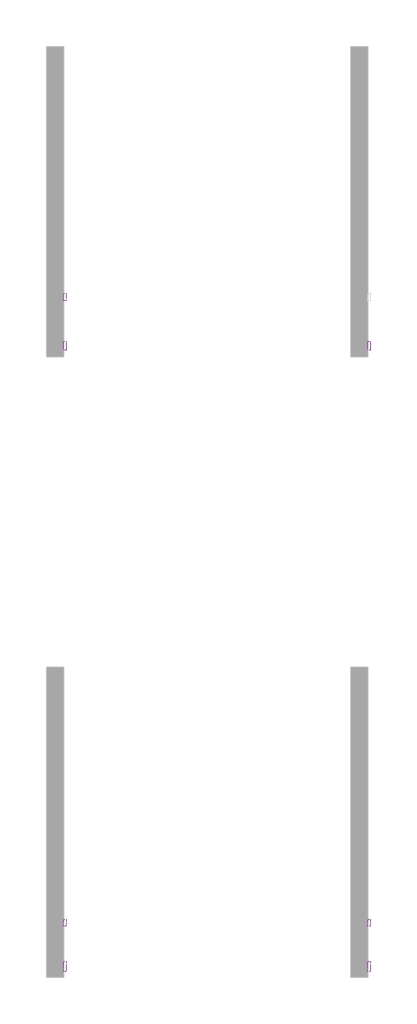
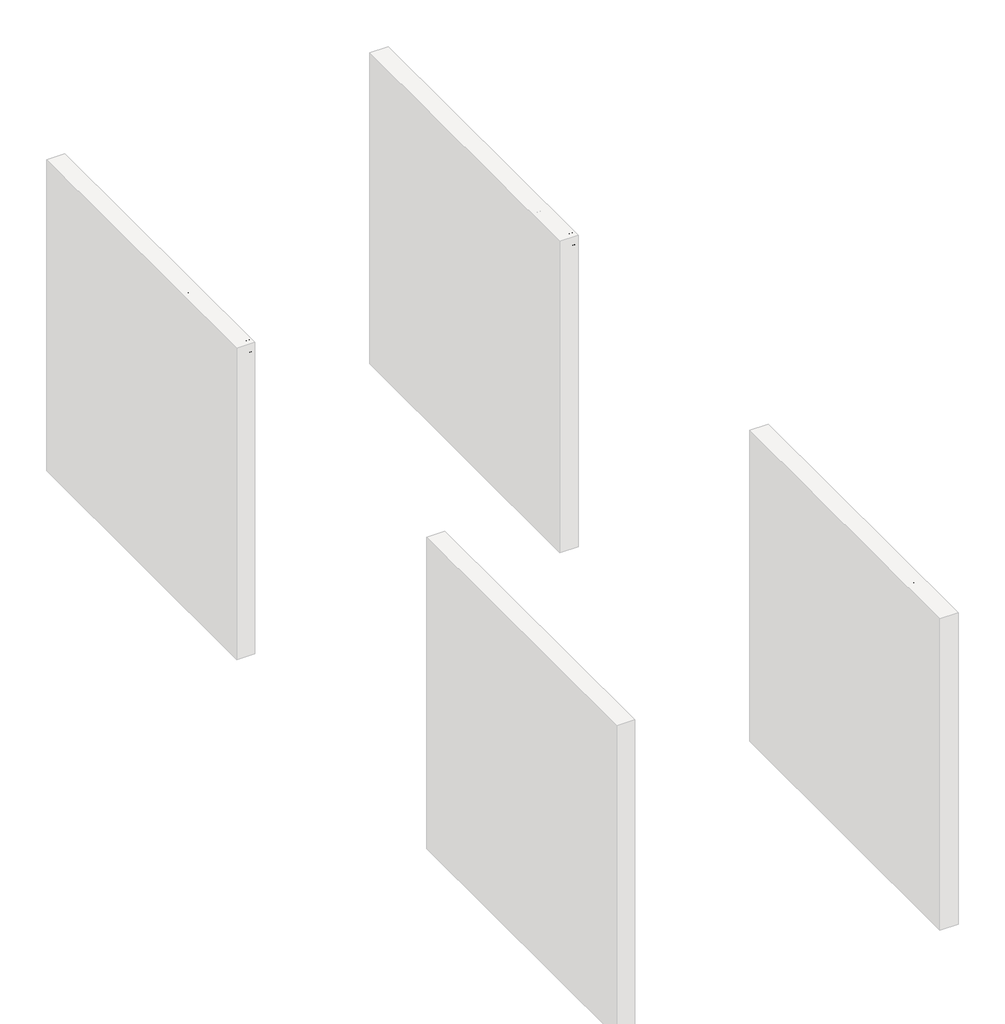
# One storey, part 7 of 8: 7 proxies.
"""IFC4 building model written with IfcOpenShell, lengths in millimetres."""

from ifc_helpers import new_model, si_unit, frame, origin, place, context, project, spatial, polyline, outline, extrude, element, save

model = new_model("IFC4")

# Units and contexts
model_context = context("Model", 3, world=origin())
ifc_project = project(units=[si_unit("LENGTHUNIT", "METRE", prefix="MILLI")], contexts=[model_context])

# Site, building, storey
site = spatial("IfcSite", under=ifc_project)
building = spatial("IfcBuilding", under=site)
storey = spatial("IfcBuildingStorey", under=building, Name="PORTOBELLO - SHOWROOM", Elevation=0.0)

# Proxies
placement = place(None, origin())
element("IfcBuildingElementProxy", 1, Name="10mm Arial", ObjectType="10mm Arial", at=placement, inside=storey, context=model_context, shape_type="SweptSolid", body=[
    extrude(outline(polyline([(1623.3898167, 2548.8308244), (1663.4889542, 2649.2871345), (1674.1820575, 2649.2871345), (1714.281195, 2548.8308244), (1701.0129177, 2548.8308244), (1689.510474, 2580.2234213), (1648.1360123, 2580.2234213), (1636.658094, 2548.8308244), (1623.3898167, 2548.8308244)]), holes=[polyline([(1652.7468, 2592.7804601), (1684.9242118, 2592.7804601), (1675.8743147, 2617.4776047), (1668.8355059, 2636.7300958), (1662.581512, 2619.6358457), (1652.7468, 2592.7804601)])]), frame((-9585.374587, 0.0, 0.0), z_axis=(1.0, 0.0, 0.0), x_axis=(0.0, 1.0, 0.0)), (0.0, 0.0, 1.0), 20.0),
    extrude(outline(polyline([(1726.1269953, 2548.8308244), (1726.1269953, 2622.6034272), (1737.1144042, 2622.6034272), (1737.1144042, 2611.6895946), (1744.9135025, 2621.7450358), (1752.7616517, 2624.173057), (1765.3677414, 2620.2980333), (1761.1738867, 2609.0408443), (1752.3447188, 2611.6160182), (1745.2445963, 2609.1389461), (1740.7196477, 2602.2718156), (1738.684034, 2587.6055867), (1738.684034, 2548.8308244), (1726.1269953, 2548.8308244)])), frame((-9585.374587, 0.0, 0.0), z_axis=(1.0, 0.0, 0.0), x_axis=(0.0, 1.0, 0.0)), (0.0, 0.0, 1.0), 20.0),
    extrude(outline(polyline([(1770.076631, 2542.552305), (1782.6336697, 2540.9826752), (1786.7048971, 2534.3607992), (1798.8940539, 2531.5648961), (1811.7453983, 2534.7286812), (1817.8767649, 2543.6069001), (1818.7351562, 2558.2486035), (1809.8937256, 2551.1852692), (1799.1147831, 2548.8308244), (1786.1684026, 2551.5715452), (1776.5145659, 2559.7937078), (1770.5088923, 2571.8479745), (1768.5070011, 2586.0850078), (1772.0999819, 2605.5459653), (1782.4987797, 2619.3170147), (1798.5016464, 2624.173057), (1809.7036532, 2621.4262048), (1818.7351562, 2613.1856481), (1818.7351562, 2622.6034272), (1831.292195, 2622.6034272), (1831.292195, 2558.9107911), (1827.8586297, 2534.5202148), (1816.9815853, 2523.1771866), (1798.6487992, 2519.0078573), (1786.9654802, 2520.4763196), (1777.7653647, 2524.8817065), (1771.8639243, 2532.2362807), (1770.076631, 2542.552305)]), holes=[polyline([(1781.0640399, 2586.9433991), (1782.4037435, 2575.425627), (1786.4228543, 2567.506967), (1792.465316, 2562.9176391), (1799.8750726, 2561.3878632), (1807.2296468, 2562.9084421), (1813.3027654, 2567.4701788), (1817.3770585, 2575.2876712), (1818.7351562, 2586.5755171), (1817.3372046, 2597.4617585), (1813.1433499, 2605.3007106), (1806.9813264, 2610.0371913), (1799.6788688, 2611.6160182), (1792.5082356, 2610.0617168), (1786.4964307, 2605.3988125), (1782.4221376, 2597.6763563), (1781.0640399, 2586.9433991)])]), frame((-9585.374587, 0.0, 0.0), z_axis=(1.0, 0.0, 0.0), x_axis=(0.0, 1.0, 0.0)), (0.0, 0.0, 1.0), 20.0),
    extrude(outline(polyline([(-9565.374587, 1862.6847919), (-9565.374587, 1850.1277531), (-9585.374587, 1850.1277531), (-9585.374587, 1862.6847919), (-9565.374587, 1862.6847919)])), frame((0.0, 0.0, 2636.7300958), z_axis=(0.0, 0.0, 1.0), x_axis=(1.0, 0.0, 0.0)), (0.0, 0.0, 1.0), 12.5570388),
    extrude(outline(polyline([(-9565.374587, 1862.6847919), (-9565.374587, 1850.1277531), (-9585.374587, 1850.1277531), (-9585.374587, 1862.6847919), (-9565.374587, 1862.6847919)])), frame((0.0, 0.0, 2548.8308244), z_axis=(0.0, 0.0, 1.0), x_axis=(1.0, 0.0, 0.0)), (0.0, 0.0, 1.0), 73.7726028),
    extrude(outline(polyline([(-9565.374587, 1894.0773888), (-9565.374587, 1881.52035), (-9585.374587, 1881.52035), (-9585.374587, 1894.0773888), (-9565.374587, 1894.0773888)])), frame((0.0, 0.0, 2548.8308244), z_axis=(0.0, 0.0, 1.0), x_axis=(1.0, 0.0, 0.0)), (0.0, 0.0, 1.0), 100.4563101),
    extrude(outline(polyline([(1960.0018423, 2558.2486035), (1947.8249483, 2549.7382666), (1934.37273, 2547.2611945), (1923.8788961, 2548.7511166), (1916.1380458, 2553.2208829), (1911.3647769, 2560.0083057), (1909.7736873, 2568.4511975), (1912.177183, 2578.3840113), (1918.4924905, 2585.5944984), (1927.2848702, 2589.7147768), (1938.1496518, 2591.6032377), (1959.9282659, 2595.9197198), (1960.0018423, 2598.7156229), (1956.5437516, 2607.9862492), (1942.6623376, 2611.6160182), (1929.9581461, 2609.2002598), (1923.9003559, 2600.6286093), (1911.3433171, 2602.1982392), (1916.7757079, 2614.4609723), (1927.7140659, 2621.646934), (1944.2810184, 2624.173057), (1959.4990703, 2621.9412396), (1968.0952462, 2616.3371705), (1971.9457444, 2607.8145709), (1972.5588811, 2596.827162), (1972.5588811, 2581.20444), (1973.1965432, 2559.3890376), (1975.6981408, 2548.8308244), (1963.141102, 2548.8308244), (1960.0018423, 2558.2486035)]), holes=[polyline([(1960.0018423, 2583.362681), (1939.7438071, 2579.5121828), (1928.9403392, 2577.4765691), (1924.0475087, 2574.1656311), (1922.330726, 2569.3341142), (1926.0708596, 2562.5405601), (1937.0460058, 2559.8182333), (1949.7501974, 2562.8226029), (1957.9417032, 2570.0944037), (1959.9282659, 2579.8064884), (1960.0018423, 2583.362681)])]), frame((-9585.374587, 0.0, 0.0), z_axis=(1.0, 0.0, 0.0), x_axis=(0.0, 1.0, 0.0)), (0.0, 0.0, 1.0), 20.0),
])
element("IfcBuildingElementProxy", 2, Name="10mm Arial", ObjectType="10mm Arial", at=placement, inside=storey, context=model_context, shape_type="SweptSolid", body=[
    extrude(outline(polyline([(1623.3898167, 2548.8308244), (1663.4889542, 2649.2871345), (1674.1820575, 2649.2871345), (1714.281195, 2548.8308244), (1701.0129177, 2548.8308244), (1689.510474, 2580.2234213), (1648.1360123, 2580.2234213), (1636.658094, 2548.8308244), (1623.3898167, 2548.8308244)]), holes=[polyline([(1652.7468, 2592.7804601), (1684.9242118, 2592.7804601), (1675.8743147, 2617.4776047), (1668.8355059, 2636.7300958), (1662.581512, 2619.6358457), (1652.7468, 2592.7804601)])]), frame((-12236.674587, 0.0, 0.0), z_axis=(1.0, 0.0, 0.0), x_axis=(0.0, 1.0, 0.0)), (0.0, 0.0, 1.0), 20.0),
    extrude(outline(polyline([(1726.1269953, 2548.8308244), (1726.1269953, 2622.6034272), (1737.1144042, 2622.6034272), (1737.1144042, 2611.6895946), (1744.9135025, 2621.7450358), (1752.7616517, 2624.173057), (1765.3677414, 2620.2980333), (1761.1738867, 2609.0408443), (1752.3447188, 2611.6160182), (1745.2445963, 2609.1389461), (1740.7196477, 2602.2718156), (1738.684034, 2587.6055867), (1738.684034, 2548.8308244), (1726.1269953, 2548.8308244)])), frame((-12236.674587, 0.0, 0.0), z_axis=(1.0, 0.0, 0.0), x_axis=(0.0, 1.0, 0.0)), (0.0, 0.0, 1.0), 20.0),
    extrude(outline(polyline([(1770.076631, 2542.552305), (1782.6336697, 2540.9826752), (1786.7048971, 2534.3607992), (1798.8940539, 2531.5648961), (1811.7453983, 2534.7286812), (1817.8767649, 2543.6069001), (1818.7351562, 2558.2486035), (1809.8937256, 2551.1852692), (1799.1147831, 2548.8308244), (1786.1684026, 2551.5715452), (1776.5145659, 2559.7937078), (1770.5088923, 2571.8479745), (1768.5070011, 2586.0850078), (1772.0999819, 2605.5459653), (1782.4987797, 2619.3170147), (1798.5016464, 2624.173057), (1809.7036532, 2621.4262048), (1818.7351562, 2613.1856481), (1818.7351562, 2622.6034272), (1831.292195, 2622.6034272), (1831.292195, 2558.9107911), (1827.8586297, 2534.5202148), (1816.9815853, 2523.1771866), (1798.6487992, 2519.0078573), (1786.9654802, 2520.4763196), (1777.7653647, 2524.8817065), (1771.8639243, 2532.2362807), (1770.076631, 2542.552305)]), holes=[polyline([(1781.0640399, 2586.9433991), (1782.4037435, 2575.425627), (1786.4228543, 2567.506967), (1792.465316, 2562.9176391), (1799.8750726, 2561.3878632), (1807.2296468, 2562.9084421), (1813.3027654, 2567.4701788), (1817.3770585, 2575.2876712), (1818.7351562, 2586.5755171), (1817.3372046, 2597.4617585), (1813.1433499, 2605.3007106), (1806.9813264, 2610.0371913), (1799.6788688, 2611.6160182), (1792.5082356, 2610.0617168), (1786.4964307, 2605.3988125), (1782.4221376, 2597.6763563), (1781.0640399, 2586.9433991)])]), frame((-12236.674587, 0.0, 0.0), z_axis=(1.0, 0.0, 0.0), x_axis=(0.0, 1.0, 0.0)), (0.0, 0.0, 1.0), 20.0),
    extrude(outline(polyline([(-12216.674587, 1862.6847919), (-12216.674587, 1850.1277531), (-12236.674587, 1850.1277531), (-12236.674587, 1862.6847919), (-12216.674587, 1862.6847919)])), frame((0.0, 0.0, 2636.7300958), z_axis=(0.0, 0.0, 1.0), x_axis=(1.0, 0.0, 0.0)), (0.0, 0.0, 1.0), 12.5570388),
    extrude(outline(polyline([(-12216.674587, 1862.6847919), (-12216.674587, 1850.1277531), (-12236.674587, 1850.1277531), (-12236.674587, 1862.6847919), (-12216.674587, 1862.6847919)])), frame((0.0, 0.0, 2548.8308244), z_axis=(0.0, 0.0, 1.0), x_axis=(1.0, 0.0, 0.0)), (0.0, 0.0, 1.0), 73.7726028),
    extrude(outline(polyline([(-12216.674587, 1894.0773888), (-12216.674587, 1881.52035), (-12236.674587, 1881.52035), (-12236.674587, 1894.0773888), (-12216.674587, 1894.0773888)])), frame((0.0, 0.0, 2548.8308244), z_axis=(0.0, 0.0, 1.0), x_axis=(1.0, 0.0, 0.0)), (0.0, 0.0, 1.0), 100.4563101),
    extrude(outline(polyline([(1960.0018423, 2558.2486035), (1947.8249483, 2549.7382666), (1934.37273, 2547.2611945), (1923.8788961, 2548.7511166), (1916.1380458, 2553.2208829), (1911.3647769, 2560.0083057), (1909.7736873, 2568.4511975), (1912.177183, 2578.3840113), (1918.4924905, 2585.5944984), (1927.2848702, 2589.7147768), (1938.1496518, 2591.6032377), (1959.9282659, 2595.9197198), (1960.0018423, 2598.7156229), (1956.5437516, 2607.9862492), (1942.6623376, 2611.6160182), (1929.9581461, 2609.2002598), (1923.9003559, 2600.6286093), (1911.3433171, 2602.1982392), (1916.7757079, 2614.4609723), (1927.7140659, 2621.646934), (1944.2810184, 2624.173057), (1959.4990703, 2621.9412396), (1968.0952462, 2616.3371705), (1971.9457444, 2607.8145709), (1972.5588811, 2596.827162), (1972.5588811, 2581.20444), (1973.1965432, 2559.3890376), (1975.6981408, 2548.8308244), (1963.141102, 2548.8308244), (1960.0018423, 2558.2486035)]), holes=[polyline([(1960.0018423, 2583.362681), (1939.7438071, 2579.5121828), (1928.9403392, 2577.4765691), (1924.0475087, 2574.1656311), (1922.330726, 2569.3341142), (1926.0708596, 2562.5405601), (1937.0460058, 2559.8182333), (1949.7501974, 2562.8226029), (1957.9417032, 2570.0944037), (1959.9282659, 2579.8064884), (1960.0018423, 2583.362681)])]), frame((-12236.674587, 0.0, 0.0), z_axis=(1.0, 0.0, 0.0), x_axis=(0.0, 1.0, 0.0)), (0.0, 0.0, 1.0), 20.0),
])
element("IfcBuildingElementProxy", 3, Name="10mm Arial", ObjectType="10mm Arial", at=placement, inside=storey, context=model_context, shape_type="SweptSolid", body=[
    extrude(outline(polyline([(7030.3795747, 2583.362681), (7042.9366134, 2583.362681), (7046.9833154, 2570.7933795), (7056.8670783, 2562.8471284), (7071.9257146, 2559.8182333), (7085.0468391, 2562.1113644), (7093.5203878, 2568.4144093), (7096.3040282, 2576.838907), (7094.2193635, 2584.6747934), (7085.6845013, 2590.3769644), (7067.4007661, 2595.171693), (7047.7190794, 2601.3643733), (7037.0382388, 2610.708576), (7033.5188343, 2623.1920383), (7037.8721046, 2637.4045461), (7050.5885589, 2647.4354618), (7069.2033879, 2650.8567644), (7089.0690156, 2647.2760463), (7102.3127674, 2636.7546212), (7107.2914371, 2621.0337973), (7094.7343983, 2621.0337973), (7092.4290045, 2628.5263273), (7087.6220131, 2633.9341926), (7069.6938972, 2638.2997256), (7051.7167304, 2633.9832435), (7046.0758731, 2623.5599203), (7050.0735241, 2614.8533798), (7070.576814, 2607.8390964), (7092.7968865, 2601.5360516), (7104.9492551, 2591.357983), (7108.861067, 2577.157738), (7104.3606439, 2562.1358899), (7091.4111977, 2551.1730064), (7072.416224, 2547.2611945), (7049.987685, 2551.4795748), (7035.7997027, 2564.1837663), (7030.3795747, 2583.362681)])), frame((-9585.374587, 0.0, 0.0), z_axis=(1.0, 0.0, 0.0), x_axis=(0.0, 1.0, 0.0)), (0.0, 0.0, 1.0), 20.0),
    extrude(outline(polyline([(7173.2158906, 2548.8308244), (7173.2158906, 2561.5104905), (7163.3811786, 2550.8235185), (7150.5543597, 2547.2611945), (7138.7453477, 2549.7627921), (7130.6028929, 2556.0413115), (7126.8627593, 2565.2874123), (7126.1269953, 2576.9615343), (7126.1269953, 2622.6034272), (7138.684034, 2622.6034272), (7138.684034, 2582.8721717), (7139.4443235, 2570.0698782), (7144.4107304, 2562.5528228), (7153.7671958, 2559.8182333), (7164.2518327, 2562.6141365), (7171.1802769, 2570.2292938), (7173.2158906, 2584.2210723), (7173.2158906, 2622.6034272), (7185.7729294, 2622.6034272), (7185.7729294, 2548.8308244), (7173.2158906, 2548.8308244)])), frame((-9585.374587, 0.0, 0.0), z_axis=(1.0, 0.0, 0.0), x_axis=(0.0, 1.0, 0.0)), (0.0, 0.0, 1.0), 20.0),
    extrude(outline(polyline([(7203.0388577, 2548.8308244), (7203.0388577, 2622.6034272), (7215.5958965, 2622.6034272), (7215.5958965, 2612.3027313), (7225.1976166, 2621.2054756), (7238.3064783, 2624.173057), (7250.1645413, 2621.781824), (7258.2579452, 2615.5033046), (7262.0226043, 2606.2694666), (7262.6847919, 2594.1293607), (7262.6847919, 2548.8308244), (7250.1277531, 2548.8308244), (7250.1277531, 2592.4371035), (7248.6807506, 2603.5471398), (7243.5671909, 2609.420989), (7234.9464894, 2611.6160182), (7221.3225929, 2606.6863995), (7217.0275706, 2599.5433574), (7215.5958965, 2587.9734687), (7215.5958965, 2548.8308244), (7203.0388577, 2548.8308244)])), frame((-9585.374587, 0.0, 0.0), z_axis=(1.0, 0.0, 0.0), x_axis=(0.0, 1.0, 0.0)), (0.0, 0.0, 1.0), 20.0),
    extrude(outline(polyline([(7279.9507202, 2548.8308244), (7279.9507202, 2622.6034272), (7292.5077589, 2622.6034272), (7292.5077589, 2612.3027313), (7302.109479, 2621.2054756), (7315.2183408, 2624.173057), (7327.0764038, 2621.781824), (7335.1698077, 2615.5033046), (7338.9344667, 2606.2694666), (7339.5966543, 2594.1293607), (7339.5966543, 2548.8308244), (7327.0396156, 2548.8308244), (7327.0396156, 2592.4371035), (7325.592613, 2603.5471398), (7320.4790533, 2609.420989), (7311.8583519, 2611.6160182), (7298.2344553, 2606.6863995), (7293.939433, 2599.5433574), (7292.5077589, 2587.9734687), (7292.5077589, 2548.8308244), (7279.9507202, 2548.8308244)])), frame((-9585.374587, 0.0, 0.0), z_axis=(1.0, 0.0, 0.0), x_axis=(0.0, 1.0, 0.0)), (0.0, 0.0, 1.0), 20.0),
    extrude(outline(polyline([(7356.8625826, 2520.5774872), (7355.2929528, 2532.6685421), (7361.669574, 2531.5648961), (7367.6292624, 2532.9505849), (7371.2835568, 2536.8133459), (7374.7171221, 2546.0594467), (7375.6981408, 2549.1006045), (7349.0144334, 2622.6034272), (7362.2581852, 2622.6034272), (7376.4093793, 2581.6458984), (7381.3389981, 2565.2628868), (7386.2686168, 2579.732912), (7400.8122183, 2622.6034272), (7413.9578683, 2622.6034272), (7388.279705, 2547.0649908), (7381.6087782, 2530.6819793), (7374.3247147, 2521.8282859), (7364.5390536, 2519.0078573), (7356.8625826, 2520.5774872)])), frame((-9585.374587, 0.0, 0.0), z_axis=(1.0, 0.0, 0.0), x_axis=(0.0, 1.0, 0.0)), (0.0, 0.0, 1.0), 20.0),
])
element("IfcBuildingElementProxy", 4, Name="10mm Arial", ObjectType="10mm Arial", at=placement, inside=storey, context=model_context, shape_type="SweptSolid", body=[
    extrude(outline(polyline([(7030.3795747, 2583.362681), (7042.9366134, 2583.362681), (7046.9833154, 2570.7933795), (7056.8670783, 2562.8471284), (7071.9257146, 2559.8182333), (7085.0468391, 2562.1113644), (7093.5203878, 2568.4144093), (7096.3040282, 2576.838907), (7094.2193635, 2584.6747934), (7085.6845013, 2590.3769644), (7067.4007661, 2595.171693), (7047.7190794, 2601.3643733), (7037.0382388, 2610.708576), (7033.5188343, 2623.1920383), (7037.8721046, 2637.4045461), (7050.5885589, 2647.4354618), (7069.2033879, 2650.8567644), (7089.0690156, 2647.2760463), (7102.3127674, 2636.7546212), (7107.2914371, 2621.0337973), (7094.7343983, 2621.0337973), (7092.4290045, 2628.5263273), (7087.6220131, 2633.9341926), (7069.6938972, 2638.2997256), (7051.7167304, 2633.9832435), (7046.0758731, 2623.5599203), (7050.0735241, 2614.8533798), (7070.576814, 2607.8390964), (7092.7968865, 2601.5360516), (7104.9492551, 2591.357983), (7108.861067, 2577.157738), (7104.3606439, 2562.1358899), (7091.4111977, 2551.1730064), (7072.416224, 2547.2611945), (7049.987685, 2551.4795748), (7035.7997027, 2564.1837663), (7030.3795747, 2583.362681)])), frame((-12236.674587, 0.0, 0.0), z_axis=(1.0, 0.0, 0.0), x_axis=(0.0, 1.0, 0.0)), (0.0, 0.0, 1.0), 20.0),
    extrude(outline(polyline([(7173.2158906, 2548.8308244), (7173.2158906, 2561.5104905), (7163.3811786, 2550.8235185), (7150.5543597, 2547.2611945), (7138.7453477, 2549.7627921), (7130.6028929, 2556.0413115), (7126.8627593, 2565.2874123), (7126.1269953, 2576.9615343), (7126.1269953, 2622.6034272), (7138.684034, 2622.6034272), (7138.684034, 2582.8721717), (7139.4443235, 2570.0698782), (7144.4107304, 2562.5528228), (7153.7671958, 2559.8182333), (7164.2518327, 2562.6141365), (7171.1802769, 2570.2292938), (7173.2158906, 2584.2210723), (7173.2158906, 2622.6034272), (7185.7729294, 2622.6034272), (7185.7729294, 2548.8308244), (7173.2158906, 2548.8308244)])), frame((-12236.674587, 0.0, 0.0), z_axis=(1.0, 0.0, 0.0), x_axis=(0.0, 1.0, 0.0)), (0.0, 0.0, 1.0), 20.0),
    extrude(outline(polyline([(7203.0388577, 2548.8308244), (7203.0388577, 2622.6034272), (7215.5958965, 2622.6034272), (7215.5958965, 2612.3027313), (7225.1976166, 2621.2054756), (7238.3064783, 2624.173057), (7250.1645413, 2621.781824), (7258.2579452, 2615.5033046), (7262.0226043, 2606.2694666), (7262.6847919, 2594.1293607), (7262.6847919, 2548.8308244), (7250.1277531, 2548.8308244), (7250.1277531, 2592.4371035), (7248.6807506, 2603.5471398), (7243.5671909, 2609.420989), (7234.9464894, 2611.6160182), (7221.3225929, 2606.6863995), (7217.0275706, 2599.5433574), (7215.5958965, 2587.9734687), (7215.5958965, 2548.8308244), (7203.0388577, 2548.8308244)])), frame((-12236.674587, 0.0, 0.0), z_axis=(1.0, 0.0, 0.0), x_axis=(0.0, 1.0, 0.0)), (0.0, 0.0, 1.0), 20.0),
    extrude(outline(polyline([(7279.9507202, 2548.8308244), (7279.9507202, 2622.6034272), (7292.5077589, 2622.6034272), (7292.5077589, 2612.3027313), (7302.109479, 2621.2054756), (7315.2183408, 2624.173057), (7327.0764038, 2621.781824), (7335.1698077, 2615.5033046), (7338.9344667, 2606.2694666), (7339.5966543, 2594.1293607), (7339.5966543, 2548.8308244), (7327.0396156, 2548.8308244), (7327.0396156, 2592.4371035), (7325.592613, 2603.5471398), (7320.4790533, 2609.420989), (7311.8583519, 2611.6160182), (7298.2344553, 2606.6863995), (7293.939433, 2599.5433574), (7292.5077589, 2587.9734687), (7292.5077589, 2548.8308244), (7279.9507202, 2548.8308244)])), frame((-12236.674587, 0.0, 0.0), z_axis=(1.0, 0.0, 0.0), x_axis=(0.0, 1.0, 0.0)), (0.0, 0.0, 1.0), 20.0),
    extrude(outline(polyline([(7356.8625826, 2520.5774872), (7355.2929528, 2532.6685421), (7361.669574, 2531.5648961), (7367.6292624, 2532.9505849), (7371.2835568, 2536.8133459), (7374.7171221, 2546.0594467), (7375.6981408, 2549.1006045), (7349.0144334, 2622.6034272), (7362.2581852, 2622.6034272), (7376.4093793, 2581.6458984), (7381.3389981, 2565.2628868), (7386.2686168, 2579.732912), (7400.8122183, 2622.6034272), (7413.9578683, 2622.6034272), (7388.279705, 2547.0649908), (7381.6087782, 2530.6819793), (7374.3247147, 2521.8282859), (7364.5390536, 2519.0078573), (7356.8625826, 2520.5774872)])), frame((-12236.674587, 0.0, 0.0), z_axis=(1.0, 0.0, 0.0), x_axis=(0.0, 1.0, 0.0)), (0.0, 0.0, 1.0), 20.0),
])
element("IfcBuildingElementProxy", 5, Name="10mm Arial Narrow", ObjectType="10mm Arial Narrow", at=placement, inside=storey, context=model_context, shape_type="SweptSolid", body=[
    extrude(outline(polyline([(2017.2235233, 2548.8308244), (2017.2235233, 2649.5494281), (2048.520408, 2649.5494281), (2064.8161095, 2647.6711074), (2076.2890956, 2638.1906642), (2080.5787741, 2621.1715554), (2078.7924657, 2609.0957299), (2073.4335405, 2599.4693361), (2063.6897516, 2593.1680777), (2048.7488524, 2591.0676582), (2026.970485, 2591.0676582), (2026.970485, 2548.8308244), (2017.2235233, 2548.8308244)]), holes=[polyline([(2026.970485, 2602.4391135), (2049.9418399, 2602.4391135), (2065.8060353, 2606.9699277), (2070.8318124, 2620.6385184), (2068.3569979, 2630.8042949), (2062.3793691, 2636.6042447), (2049.7133955, 2638.1779729), (2026.970485, 2638.1779729), (2026.970485, 2602.4391135)])]), frame((-9585.374587, 0.0, 0.0), z_axis=(1.0, 0.0, 0.0), x_axis=(0.0, 1.0, 0.0)), (0.0, 0.0, 1.0), 20.0),
    extrude(outline(polyline([(2088.7012421, 2585.3819306), (2090.655711, 2601.9727061), (2096.5191176, 2613.9247909), (2105.3776843, 2621.1493455), (2116.3176335, 2623.5575304), (2127.130669, 2621.1493455), (2136.0146185, 2613.9247909), (2141.9541732, 2602.1630765), (2143.9340248, 2586.143412), (2141.9890745, 2568.9815254), (2136.1542234, 2556.8390702), (2127.3051752, 2549.6145156), (2116.3176335, 2547.2063308), (2105.4570053, 2549.6208613), (2096.5825744, 2556.8644529), (2090.6715752, 2568.8228834), (2088.7012421, 2585.3819306)]), holes=[polyline([(2098.4482038, 2585.4073133), (2099.7522406, 2572.8555619), (2103.6643512, 2563.9843038), (2109.505548, 2558.7110453), (2116.5968433, 2556.9532924), (2123.3169165, 2558.7269095), (2129.0089898, 2564.0477606), (2132.8925448, 2572.9348829), (2134.1870632, 2585.4073133), (2132.8830263, 2597.9209906), (2128.9709157, 2606.7795573), (2123.129719, 2612.0528159), (2116.0384236, 2613.8105687), (2109.2707579, 2612.0432974), (2103.5882031, 2606.7414833), (2099.7332036, 2597.873398), (2098.4482038, 2585.4073133)])]), frame((-9585.374587, 0.0, 0.0), z_axis=(1.0, 0.0, 0.0), x_axis=(0.0, 1.0, 0.0)), (0.0, 0.0, 1.0), 20.0),
    extrude(outline(polyline([(2215.4117436, 2556.9532924), (2217.0362372, 2547.2063308), (2209.6752505, 2547.2063308), (2201.4004862, 2549.3257873), (2197.0854251, 2555.1257371), (2195.9178203, 2569.7715623), (2195.9178203, 2612.1860751), (2187.7953522, 2612.1860751), (2187.7953522, 2615.4350624), (2186.1708586, 2610.5615815), (2178.6068103, 2612.1860751), (2172.5276506, 2609.8635569), (2168.6567869, 2603.3782738), (2166.6769353, 2587.9709673), (2166.6769353, 2548.8308244), (2156.9299737, 2548.8308244), (2156.9299737, 2621.9330368), (2166.6769353, 2621.9330368), (2166.6769353, 2612.2368406), (2172.9210826, 2621.3238517), (2179.3175262, 2623.5575304), (2187.7953522, 2621.9330368), (2195.9178203, 2621.9330368), (2195.9178203, 2638.1779729), (2205.6647819, 2646.3004409), (2205.6647819, 2621.9330368), (2215.4117436, 2621.9330368), (2215.4117436, 2612.1860751), (2205.6647819, 2612.1860751), (2205.6647819, 2567.5378836), (2206.5277942, 2559.5423291), (2211.1474479, 2556.9532924), (2215.4117436, 2556.9532924)])), frame((-9585.374587, 0.0, 0.0), z_axis=(1.0, 0.0, 0.0), x_axis=(0.0, 1.0, 0.0)), (0.0, 0.0, 1.0), 20.0),
    extrude(outline(polyline([(2221.909718, 2585.3819306), (2223.8641869, 2601.9727061), (2229.7275935, 2613.9247909), (2238.5861602, 2621.1493455), (2249.5261094, 2623.5575304), (2260.339145, 2621.1493455), (2269.2230944, 2613.9247909), (2275.1626492, 2602.1630765), (2277.1425007, 2586.143412), (2275.1975504, 2568.9815254), (2269.3626993, 2556.8390702), (2260.5136511, 2549.6145156), (2249.5261094, 2547.2063308), (2238.6654812, 2549.6208613), (2229.7910503, 2556.8644529), (2223.8800511, 2568.8228834), (2221.909718, 2585.3819306)]), holes=[polyline([(2231.6566797, 2585.4073133), (2232.9607166, 2572.8555619), (2236.8728271, 2563.9843038), (2242.7140239, 2558.7110453), (2249.8053192, 2556.9532924), (2256.5253924, 2558.7269095), (2262.2174657, 2564.0477606), (2266.1010207, 2572.9348829), (2267.3955391, 2585.4073133), (2266.0915022, 2597.9209906), (2262.1793916, 2606.7795573), (2256.3381949, 2612.0528159), (2249.2468995, 2613.8105687), (2242.4792338, 2612.0432974), (2236.796679, 2606.7414833), (2232.9416795, 2597.873398), (2231.6566797, 2585.4073133)])]), frame((-9585.374587, 0.0, 0.0), z_axis=(1.0, 0.0, 0.0), x_axis=(0.0, 1.0, 0.0)), (0.0, 0.0, 1.0), 20.0),
    extrude(outline(polyline([(2299.8854113, 2548.8308244), (2290.1384496, 2548.8308244), (2290.1384496, 2649.5494281), (2299.8854113, 2649.5494281), (2299.8854113, 2614.140544), (2307.284472, 2621.2223208), (2316.4857053, 2623.5575304), (2329.367432, 2619.3566915), (2338.6448135, 2606.6272611), (2342.1222451, 2585.9403503), (2340.1899861, 2569.4860068), (2334.3932091, 2557.2832677), (2326.0200868, 2549.725565), (2316.3587918, 2547.2063308), (2307.0179535, 2549.8207502), (2299.8854113, 2557.5878602), (2299.8854113, 2548.8308244)]), holes=[polyline([(2299.8854113, 2585.9403503), (2301.9667937, 2568.692797), (2307.855583, 2559.9611439), (2316.3080263, 2556.9532924), (2322.2507539, 2558.7427737), (2327.4891113, 2564.1112174), (2332.3752834, 2585.5342269), (2327.6667902, 2606.9699277), (2322.4220872, 2612.1004085), (2316.1049646, 2613.8105687), (2310.1273358, 2612.0210875), (2304.8350402, 2606.6526438), (2299.8854113, 2585.9403503)])]), frame((-9585.374587, 0.0, 0.0), z_axis=(1.0, 0.0, 0.0), x_axis=(0.0, 1.0, 0.0)), (0.0, 0.0, 1.0), 20.0),
    extrude(outline(polyline([(2394.1060406, 2571.5737349), (2403.8530022, 2569.9492413), (2400.1534719, 2560.0626747), (2394.334485, 2552.9428238), (2386.6308317, 2548.640454), (2377.2773021, 2547.2063308), (2365.6837481, 2549.6208613), (2356.5396259, 2556.8644529), (2350.6000711, 2568.6705872), (2348.6202195, 2584.7727455), (2350.6095896, 2601.4396692), (2356.5776999, 2613.6201984), (2365.5917358, 2621.0731974), (2376.7188824, 2623.5575304), (2387.4018316, 2621.1588641), (2396.1493489, 2613.962865), (2401.9842, 2602.2233604), (2403.9291504, 2586.1941774), (2403.8530022, 2582.9451902), (2358.3671812, 2582.9451902), (2364.3701927, 2563.5020323), (2370.300229, 2558.5904774), (2377.4042157, 2556.9532924), (2387.5826834, 2560.608403), (2394.1060406, 2571.5737349)]), holes=[polyline([(2359.0271317, 2592.6921518), (2394.1060406, 2592.6921518), (2389.8417449, 2606.9572363), (2384.0164123, 2612.0972356), (2376.7950306, 2613.8105687), (2364.5859458, 2608.0994584), (2359.0271317, 2592.6921518)])]), frame((-9585.374587, 0.0, 0.0), z_axis=(1.0, 0.0, 0.0), x_axis=(0.0, 1.0, 0.0)), (0.0, 0.0, 1.0), 20.0),
    extrude(outline(polyline([(-9565.374587, 2426.5959128), (-9565.374587, 2416.8489511), (-9585.374587, 2416.8489511), (-9585.374587, 2426.5959128), (-9565.374587, 2426.5959128)])), frame((0.0, 0.0, 2548.8308244), z_axis=(0.0, 0.0, 1.0), x_axis=(1.0, 0.0, 0.0)), (0.0, 0.0, 1.0), 100.7186038),
    extrude(outline(polyline([(-9565.374587, 2452.5878105), (-9565.374587, 2442.8408488), (-9585.374587, 2442.8408488), (-9585.374587, 2452.5878105), (-9565.374587, 2452.5878105)])), frame((0.0, 0.0, 2548.8308244), z_axis=(0.0, 0.0, 1.0), x_axis=(1.0, 0.0, 0.0)), (0.0, 0.0, 1.0), 100.7186038),
    extrude(outline(polyline([(2463.9592658, 2585.3819306), (2465.9137346, 2601.9727061), (2471.7771413, 2613.9247909), (2480.635708, 2621.1493455), (2491.5756571, 2623.5575304), (2502.3886927, 2621.1493455), (2511.2726421, 2613.9247909), (2517.2121969, 2602.1630765), (2519.1920485, 2586.143412), (2517.2470981, 2568.9815254), (2511.412247, 2556.8390702), (2502.5631988, 2549.6145156), (2491.5756571, 2547.2063308), (2480.7150289, 2549.6208613), (2471.840598, 2556.8644529), (2465.9295988, 2568.8228834), (2463.9592658, 2585.3819306)]), holes=[polyline([(2473.7062274, 2585.4073133), (2475.0102643, 2572.8555619), (2478.9223749, 2563.9843038), (2484.7635716, 2558.7110453), (2491.854867, 2556.9532924), (2498.5749401, 2558.7269095), (2504.2670134, 2564.0477606), (2508.1505685, 2572.9348829), (2509.4450868, 2585.4073133), (2508.14105, 2597.9209906), (2504.2289394, 2606.7795573), (2498.3877426, 2612.0528159), (2491.2964473, 2613.8105687), (2484.5287815, 2612.0432974), (2478.8462267, 2606.7414833), (2474.9912272, 2597.873398), (2473.7062274, 2585.4073133)])]), frame((-9585.374587, 0.0, 0.0), z_axis=(1.0, 0.0, 0.0), x_axis=(0.0, 1.0, 0.0)), (0.0, 0.0, 1.0), 20.0),
])
element("IfcBuildingElementProxy", 6, Name="10mm Arial Narrow", ObjectType="10mm Arial Narrow", at=placement, inside=storey, context=model_context, shape_type="SweptSolid", body=[
    extrude(outline(polyline([(2017.2235233, 2548.8308244), (2017.2235233, 2649.5494281), (2048.520408, 2649.5494281), (2064.8161095, 2647.6711074), (2076.2890956, 2638.1906642), (2080.5787741, 2621.1715554), (2078.7924657, 2609.0957299), (2073.4335405, 2599.4693361), (2063.6897516, 2593.1680777), (2048.7488524, 2591.0676582), (2026.970485, 2591.0676582), (2026.970485, 2548.8308244), (2017.2235233, 2548.8308244)]), holes=[polyline([(2026.970485, 2602.4391135), (2049.9418399, 2602.4391135), (2065.8060353, 2606.9699277), (2070.8318124, 2620.6385184), (2068.3569979, 2630.8042949), (2062.3793691, 2636.6042447), (2049.7133955, 2638.1779729), (2026.970485, 2638.1779729), (2026.970485, 2602.4391135)])]), frame((-12236.674587, 0.0, 0.0), z_axis=(1.0, 0.0, 0.0), x_axis=(0.0, 1.0, 0.0)), (0.0, 0.0, 1.0), 20.0),
    extrude(outline(polyline([(2088.7012421, 2585.3819306), (2090.655711, 2601.9727061), (2096.5191176, 2613.9247909), (2105.3776843, 2621.1493455), (2116.3176335, 2623.5575304), (2127.130669, 2621.1493455), (2136.0146185, 2613.9247909), (2141.9541732, 2602.1630765), (2143.9340248, 2586.143412), (2141.9890745, 2568.9815254), (2136.1542234, 2556.8390702), (2127.3051752, 2549.6145156), (2116.3176335, 2547.2063308), (2105.4570053, 2549.6208613), (2096.5825744, 2556.8644529), (2090.6715752, 2568.8228834), (2088.7012421, 2585.3819306)]), holes=[polyline([(2098.4482038, 2585.4073133), (2099.7522406, 2572.8555619), (2103.6643512, 2563.9843038), (2109.505548, 2558.7110453), (2116.5968433, 2556.9532924), (2123.3169165, 2558.7269095), (2129.0089898, 2564.0477606), (2132.8925448, 2572.9348829), (2134.1870632, 2585.4073133), (2132.8830263, 2597.9209906), (2128.9709157, 2606.7795573), (2123.129719, 2612.0528159), (2116.0384236, 2613.8105687), (2109.2707579, 2612.0432974), (2103.5882031, 2606.7414833), (2099.7332036, 2597.873398), (2098.4482038, 2585.4073133)])]), frame((-12236.674587, 0.0, 0.0), z_axis=(1.0, 0.0, 0.0), x_axis=(0.0, 1.0, 0.0)), (0.0, 0.0, 1.0), 20.0),
    extrude(outline(polyline([(2215.4117436, 2556.9532924), (2217.0362372, 2547.2063308), (2209.6752505, 2547.2063308), (2201.4004862, 2549.3257873), (2197.0854251, 2555.1257371), (2195.9178203, 2569.7715623), (2195.9178203, 2612.1860751), (2187.7953522, 2612.1860751), (2187.7953522, 2615.4350624), (2186.1708586, 2610.5615815), (2178.6068103, 2612.1860751), (2172.5276506, 2609.8635569), (2168.6567869, 2603.3782738), (2166.6769353, 2587.9709673), (2166.6769353, 2548.8308244), (2156.9299737, 2548.8308244), (2156.9299737, 2621.9330368), (2166.6769353, 2621.9330368), (2166.6769353, 2612.2368406), (2172.9210826, 2621.3238517), (2179.3175262, 2623.5575304), (2187.7953522, 2621.9330368), (2195.9178203, 2621.9330368), (2195.9178203, 2638.1779729), (2205.6647819, 2646.3004409), (2205.6647819, 2621.9330368), (2215.4117436, 2621.9330368), (2215.4117436, 2612.1860751), (2205.6647819, 2612.1860751), (2205.6647819, 2567.5378836), (2206.5277942, 2559.5423291), (2211.1474479, 2556.9532924), (2215.4117436, 2556.9532924)])), frame((-12236.674587, 0.0, 0.0), z_axis=(1.0, 0.0, 0.0), x_axis=(0.0, 1.0, 0.0)), (0.0, 0.0, 1.0), 20.0),
    extrude(outline(polyline([(2221.909718, 2585.3819306), (2223.8641869, 2601.9727061), (2229.7275935, 2613.9247909), (2238.5861602, 2621.1493455), (2249.5261094, 2623.5575304), (2260.339145, 2621.1493455), (2269.2230944, 2613.9247909), (2275.1626492, 2602.1630765), (2277.1425007, 2586.143412), (2275.1975504, 2568.9815254), (2269.3626993, 2556.8390702), (2260.5136511, 2549.6145156), (2249.5261094, 2547.2063308), (2238.6654812, 2549.6208613), (2229.7910503, 2556.8644529), (2223.8800511, 2568.8228834), (2221.909718, 2585.3819306)]), holes=[polyline([(2231.6566797, 2585.4073133), (2232.9607166, 2572.8555619), (2236.8728271, 2563.9843038), (2242.7140239, 2558.7110453), (2249.8053192, 2556.9532924), (2256.5253924, 2558.7269095), (2262.2174657, 2564.0477606), (2266.1010207, 2572.9348829), (2267.3955391, 2585.4073133), (2266.0915022, 2597.9209906), (2262.1793916, 2606.7795573), (2256.3381949, 2612.0528159), (2249.2468995, 2613.8105687), (2242.4792338, 2612.0432974), (2236.796679, 2606.7414833), (2232.9416795, 2597.873398), (2231.6566797, 2585.4073133)])]), frame((-12236.674587, 0.0, 0.0), z_axis=(1.0, 0.0, 0.0), x_axis=(0.0, 1.0, 0.0)), (0.0, 0.0, 1.0), 20.0),
    extrude(outline(polyline([(2299.8854113, 2548.8308244), (2290.1384496, 2548.8308244), (2290.1384496, 2649.5494281), (2299.8854113, 2649.5494281), (2299.8854113, 2614.140544), (2307.284472, 2621.2223208), (2316.4857053, 2623.5575304), (2329.367432, 2619.3566915), (2338.6448135, 2606.6272611), (2342.1222451, 2585.9403503), (2340.1899861, 2569.4860068), (2334.3932091, 2557.2832677), (2326.0200868, 2549.725565), (2316.3587918, 2547.2063308), (2307.0179535, 2549.8207502), (2299.8854113, 2557.5878602), (2299.8854113, 2548.8308244)]), holes=[polyline([(2299.8854113, 2585.9403503), (2301.9667937, 2568.692797), (2307.855583, 2559.9611439), (2316.3080263, 2556.9532924), (2322.2507539, 2558.7427737), (2327.4891113, 2564.1112174), (2332.3752834, 2585.5342269), (2327.6667902, 2606.9699277), (2322.4220872, 2612.1004085), (2316.1049646, 2613.8105687), (2310.1273358, 2612.0210875), (2304.8350402, 2606.6526438), (2299.8854113, 2585.9403503)])]), frame((-12236.674587, 0.0, 0.0), z_axis=(1.0, 0.0, 0.0), x_axis=(0.0, 1.0, 0.0)), (0.0, 0.0, 1.0), 20.0),
    extrude(outline(polyline([(2394.1060406, 2571.5737349), (2403.8530022, 2569.9492413), (2400.1534719, 2560.0626747), (2394.334485, 2552.9428238), (2386.6308317, 2548.640454), (2377.2773021, 2547.2063308), (2365.6837481, 2549.6208613), (2356.5396259, 2556.8644529), (2350.6000711, 2568.6705872), (2348.6202195, 2584.7727455), (2350.6095896, 2601.4396692), (2356.5776999, 2613.6201984), (2365.5917358, 2621.0731974), (2376.7188824, 2623.5575304), (2387.4018316, 2621.1588641), (2396.1493489, 2613.962865), (2401.9842, 2602.2233604), (2403.9291504, 2586.1941774), (2403.8530022, 2582.9451902), (2358.3671812, 2582.9451902), (2364.3701927, 2563.5020323), (2370.300229, 2558.5904774), (2377.4042157, 2556.9532924), (2387.5826834, 2560.608403), (2394.1060406, 2571.5737349)]), holes=[polyline([(2359.0271317, 2592.6921518), (2394.1060406, 2592.6921518), (2389.8417449, 2606.9572363), (2384.0164123, 2612.0972356), (2376.7950306, 2613.8105687), (2364.5859458, 2608.0994584), (2359.0271317, 2592.6921518)])]), frame((-12236.674587, 0.0, 0.0), z_axis=(1.0, 0.0, 0.0), x_axis=(0.0, 1.0, 0.0)), (0.0, 0.0, 1.0), 20.0),
    extrude(outline(polyline([(-12216.674587, 2426.5959128), (-12216.674587, 2416.8489511), (-12236.674587, 2416.8489511), (-12236.674587, 2426.5959128), (-12216.674587, 2426.5959128)])), frame((0.0, 0.0, 2548.8308244), z_axis=(0.0, 0.0, 1.0), x_axis=(1.0, 0.0, 0.0)), (0.0, 0.0, 1.0), 100.7186038),
    extrude(outline(polyline([(-12216.674587, 2452.5878105), (-12216.674587, 2442.8408488), (-12236.674587, 2442.8408488), (-12236.674587, 2452.5878105), (-12216.674587, 2452.5878105)])), frame((0.0, 0.0, 2548.8308244), z_axis=(0.0, 0.0, 1.0), x_axis=(1.0, 0.0, 0.0)), (0.0, 0.0, 1.0), 100.7186038),
    extrude(outline(polyline([(2463.9592658, 2585.3819306), (2465.9137346, 2601.9727061), (2471.7771413, 2613.9247909), (2480.635708, 2621.1493455), (2491.5756571, 2623.5575304), (2502.3886927, 2621.1493455), (2511.2726421, 2613.9247909), (2517.2121969, 2602.1630765), (2519.1920485, 2586.143412), (2517.2470981, 2568.9815254), (2511.412247, 2556.8390702), (2502.5631988, 2549.6145156), (2491.5756571, 2547.2063308), (2480.7150289, 2549.6208613), (2471.840598, 2556.8644529), (2465.9295988, 2568.8228834), (2463.9592658, 2585.3819306)]), holes=[polyline([(2473.7062274, 2585.4073133), (2475.0102643, 2572.8555619), (2478.9223749, 2563.9843038), (2484.7635716, 2558.7110453), (2491.854867, 2556.9532924), (2498.5749401, 2558.7269095), (2504.2670134, 2564.0477606), (2508.1505685, 2572.9348829), (2509.4450868, 2585.4073133), (2508.14105, 2597.9209906), (2504.2289394, 2606.7795573), (2498.3877426, 2612.0528159), (2491.2964473, 2613.8105687), (2484.5287815, 2612.0432974), (2478.8462267, 2606.7414833), (2474.9912272, 2597.873398), (2473.7062274, 2585.4073133)])]), frame((-12236.674587, 0.0, 0.0), z_axis=(1.0, 0.0, 0.0), x_axis=(0.0, 1.0, 0.0)), (0.0, 0.0, 1.0), 20.0),
])
element("IfcBuildingElementProxy", 7, Name="10mm Arial Narrow", ObjectType="10mm Arial Narrow", at=placement, inside=storey, context=model_context, shape_type="SweptSolid", body=[
    extrude(outline(polyline([(7462.2235233, 2548.8308244), (7462.2235233, 2649.5494281), (7493.520408, 2649.5494281), (7509.8161095, 2647.6711074), (7521.2890956, 2638.1906642), (7525.5787741, 2621.1715554), (7523.7924657, 2609.0957299), (7518.4335405, 2599.4693361), (7508.6897516, 2593.1680777), (7493.7488524, 2591.0676582), (7471.970485, 2591.0676582), (7471.970485, 2548.8308244), (7462.2235233, 2548.8308244)]), holes=[polyline([(7471.970485, 2602.4391135), (7494.9418399, 2602.4391135), (7510.8060353, 2606.9699277), (7515.8318124, 2620.6385184), (7513.3569979, 2630.8042949), (7507.3793691, 2636.6042447), (7494.7133955, 2638.1779729), (7471.970485, 2638.1779729), (7471.970485, 2602.4391135)])]), frame((-12236.674587, 0.0, 0.0), z_axis=(1.0, 0.0, 0.0), x_axis=(0.0, 1.0, 0.0)), (0.0, 0.0, 1.0), 20.0),
    extrude(outline(polyline([(7533.7012421, 2585.3819306), (7535.655711, 2601.9727061), (7541.5191176, 2613.9247909), (7550.3776843, 2621.1493455), (7561.3176335, 2623.5575304), (7572.130669, 2621.1493455), (7581.0146185, 2613.9247909), (7586.9541732, 2602.1630765), (7588.9340248, 2586.143412), (7586.9890745, 2568.9815254), (7581.1542234, 2556.8390702), (7572.3051752, 2549.6145156), (7561.3176335, 2547.2063308), (7550.4570053, 2549.6208613), (7541.5825744, 2556.8644529), (7535.6715752, 2568.8228834), (7533.7012421, 2585.3819306)]), holes=[polyline([(7543.4482038, 2585.4073133), (7544.7522406, 2572.8555619), (7548.6643512, 2563.9843038), (7554.505548, 2558.7110453), (7561.5968433, 2556.9532924), (7568.3169165, 2558.7269095), (7574.0089898, 2564.0477606), (7577.8925448, 2572.9348829), (7579.1870632, 2585.4073133), (7577.8830263, 2597.9209906), (7573.9709157, 2606.7795573), (7568.129719, 2612.0528159), (7561.0384236, 2613.8105687), (7554.2707579, 2612.0432974), (7548.5882031, 2606.7414833), (7544.7332036, 2597.873398), (7543.4482038, 2585.4073133)])]), frame((-12236.674587, 0.0, 0.0), z_axis=(1.0, 0.0, 0.0), x_axis=(0.0, 1.0, 0.0)), (0.0, 0.0, 1.0), 20.0),
    extrude(outline(polyline([(7660.4117436, 2556.9532924), (7662.0362372, 2547.2063308), (7654.6752505, 2547.2063308), (7646.4004862, 2549.3257873), (7642.0854251, 2555.1257371), (7640.9178203, 2569.7715623), (7640.9178203, 2612.1860751), (7632.7953522, 2612.1860751), (7632.7953522, 2615.4350624), (7631.1708586, 2610.5615815), (7623.6068103, 2612.1860751), (7617.5276506, 2609.8635569), (7613.6567869, 2603.3782738), (7611.6769353, 2587.9709673), (7611.6769353, 2548.8308244), (7601.9299737, 2548.8308244), (7601.9299737, 2621.9330368), (7611.6769353, 2621.9330368), (7611.6769353, 2612.2368406), (7617.9210826, 2621.3238517), (7624.3175262, 2623.5575304), (7632.7953522, 2621.9330368), (7640.9178203, 2621.9330368), (7640.9178203, 2638.1779729), (7650.6647819, 2646.3004409), (7650.6647819, 2621.9330368), (7660.4117436, 2621.9330368), (7660.4117436, 2612.1860751), (7650.6647819, 2612.1860751), (7650.6647819, 2567.5378836), (7651.5277942, 2559.5423291), (7656.1474479, 2556.9532924), (7660.4117436, 2556.9532924)])), frame((-12236.674587, 0.0, 0.0), z_axis=(1.0, 0.0, 0.0), x_axis=(0.0, 1.0, 0.0)), (0.0, 0.0, 1.0), 20.0),
    extrude(outline(polyline([(7666.909718, 2585.3819306), (7668.8641869, 2601.9727061), (7674.7275935, 2613.9247909), (7683.5861602, 2621.1493455), (7694.5261094, 2623.5575304), (7705.339145, 2621.1493455), (7714.2230944, 2613.9247909), (7720.1626492, 2602.1630765), (7722.1425007, 2586.143412), (7720.1975504, 2568.9815254), (7714.3626993, 2556.8390702), (7705.5136511, 2549.6145156), (7694.5261094, 2547.2063308), (7683.6654812, 2549.6208613), (7674.7910503, 2556.8644529), (7668.8800511, 2568.8228834), (7666.909718, 2585.3819306)]), holes=[polyline([(7676.6566797, 2585.4073133), (7677.9607166, 2572.8555619), (7681.8728271, 2563.9843038), (7687.7140239, 2558.7110453), (7694.8053192, 2556.9532924), (7701.5253924, 2558.7269095), (7707.2174657, 2564.0477606), (7711.1010207, 2572.9348829), (7712.3955391, 2585.4073133), (7711.0915022, 2597.9209906), (7707.1793916, 2606.7795573), (7701.3381949, 2612.0528159), (7694.2468995, 2613.8105687), (7687.4792338, 2612.0432974), (7681.796679, 2606.7414833), (7677.9416795, 2597.873398), (7676.6566797, 2585.4073133)])]), frame((-12236.674587, 0.0, 0.0), z_axis=(1.0, 0.0, 0.0), x_axis=(0.0, 1.0, 0.0)), (0.0, 0.0, 1.0), 20.0),
    extrude(outline(polyline([(7744.8854113, 2548.8308244), (7735.1384496, 2548.8308244), (7735.1384496, 2649.5494281), (7744.8854113, 2649.5494281), (7744.8854113, 2614.140544), (7752.284472, 2621.2223208), (7761.4857053, 2623.5575304), (7774.367432, 2619.3566915), (7783.6448135, 2606.6272611), (7787.1222451, 2585.9403503), (7785.1899861, 2569.4860068), (7779.3932091, 2557.2832677), (7771.0200868, 2549.725565), (7761.3587918, 2547.2063308), (7752.0179535, 2549.8207502), (7744.8854113, 2557.5878602), (7744.8854113, 2548.8308244)]), holes=[polyline([(7744.8854113, 2585.9403503), (7746.9667937, 2568.692797), (7752.855583, 2559.9611439), (7761.3080263, 2556.9532924), (7767.2507539, 2558.7427737), (7772.4891113, 2564.1112174), (7777.3752834, 2585.5342269), (7772.6667902, 2606.9699277), (7767.4220872, 2612.1004085), (7761.1049646, 2613.8105687), (7755.1273358, 2612.0210875), (7749.8350402, 2606.6526438), (7744.8854113, 2585.9403503)])]), frame((-12236.674587, 0.0, 0.0), z_axis=(1.0, 0.0, 0.0), x_axis=(0.0, 1.0, 0.0)), (0.0, 0.0, 1.0), 20.0),
    extrude(outline(polyline([(7839.1060406, 2571.5737349), (7848.8530022, 2569.9492413), (7845.1534719, 2560.0626747), (7839.334485, 2552.9428238), (7831.6308317, 2548.640454), (7822.2773021, 2547.2063308), (7810.6837481, 2549.6208613), (7801.5396259, 2556.8644529), (7795.6000711, 2568.6705872), (7793.6202195, 2584.7727455), (7795.6095896, 2601.4396692), (7801.5776999, 2613.6201984), (7810.5917358, 2621.0731974), (7821.7188824, 2623.5575304), (7832.4018316, 2621.1588641), (7841.1493489, 2613.962865), (7846.9842, 2602.2233604), (7848.9291504, 2586.1941774), (7848.8530022, 2582.9451902), (7803.3671812, 2582.9451902), (7809.3701927, 2563.5020323), (7815.300229, 2558.5904774), (7822.4042157, 2556.9532924), (7832.5826834, 2560.608403), (7839.1060406, 2571.5737349)]), holes=[polyline([(7804.0271317, 2592.6921518), (7839.1060406, 2592.6921518), (7834.8417449, 2606.9572363), (7829.0164123, 2612.0972356), (7821.7950306, 2613.8105687), (7809.5859458, 2608.0994584), (7804.0271317, 2592.6921518)])]), frame((-12236.674587, 0.0, 0.0), z_axis=(1.0, 0.0, 0.0), x_axis=(0.0, 1.0, 0.0)), (0.0, 0.0, 1.0), 20.0),
    extrude(outline(polyline([(-12216.674587, 7871.5959128), (-12216.674587, 7861.8489511), (-12236.674587, 7861.8489511), (-12236.674587, 7871.5959128), (-12216.674587, 7871.5959128)])), frame((0.0, 0.0, 2548.8308244), z_axis=(0.0, 0.0, 1.0), x_axis=(1.0, 0.0, 0.0)), (0.0, 0.0, 1.0), 100.7186038),
    extrude(outline(polyline([(-12216.674587, 7897.5878105), (-12216.674587, 7887.8408488), (-12236.674587, 7887.8408488), (-12236.674587, 7897.5878105), (-12216.674587, 7897.5878105)])), frame((0.0, 0.0, 2548.8308244), z_axis=(0.0, 0.0, 1.0), x_axis=(1.0, 0.0, 0.0)), (0.0, 0.0, 1.0), 100.7186038),
    extrude(outline(polyline([(7908.9592658, 2585.3819306), (7910.9137346, 2601.9727061), (7916.7771413, 2613.9247909), (7925.635708, 2621.1493455), (7936.5756571, 2623.5575304), (7947.3886927, 2621.1493455), (7956.2726421, 2613.9247909), (7962.2121969, 2602.1630765), (7964.1920485, 2586.143412), (7962.2470981, 2568.9815254), (7956.412247, 2556.8390702), (7947.5631988, 2549.6145156), (7936.5756571, 2547.2063308), (7925.7150289, 2549.6208613), (7916.840598, 2556.8644529), (7910.9295988, 2568.8228834), (7908.9592658, 2585.3819306)]), holes=[polyline([(7918.7062274, 2585.4073133), (7920.0102643, 2572.8555619), (7923.9223749, 2563.9843038), (7929.7635716, 2558.7110453), (7936.854867, 2556.9532924), (7943.5749401, 2558.7269095), (7949.2670134, 2564.0477606), (7953.1505685, 2572.9348829), (7954.4450868, 2585.4073133), (7953.14105, 2597.9209906), (7949.2289394, 2606.7795573), (7943.3877426, 2612.0528159), (7936.2964473, 2613.8105687), (7929.5287815, 2612.0432974), (7923.8462267, 2606.7414833), (7919.9912272, 2597.873398), (7918.7062274, 2585.4073133)])]), frame((-12236.674587, 0.0, 0.0), z_axis=(1.0, 0.0, 0.0), x_axis=(0.0, 1.0, 0.0)), (0.0, 0.0, 1.0), 20.0),
])

save(model, "model.ifc")
